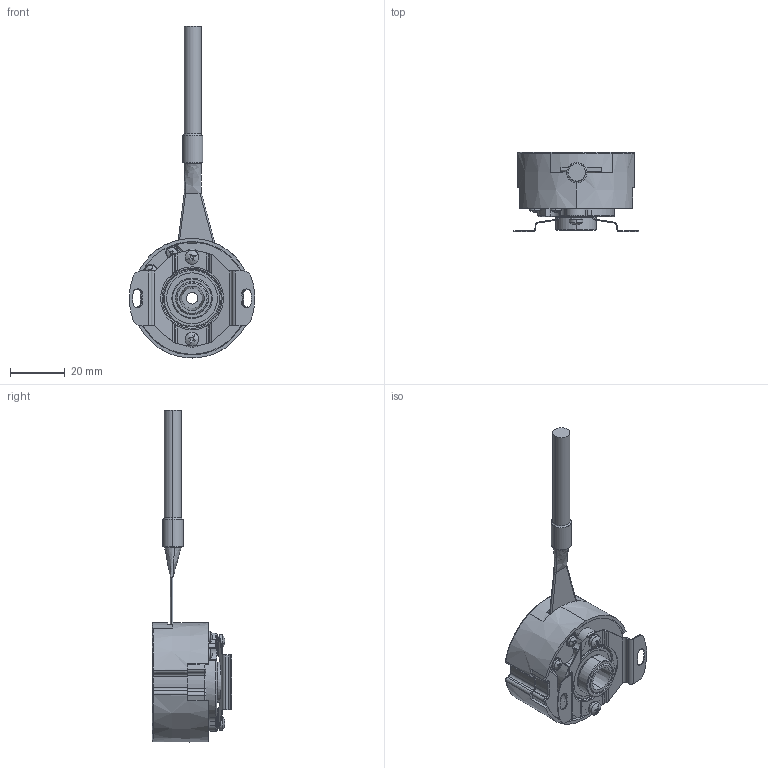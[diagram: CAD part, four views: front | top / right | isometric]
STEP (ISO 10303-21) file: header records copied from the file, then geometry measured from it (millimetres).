
FILE_DESCRIPTION (( 'STEP AP203' ), '1' );
FILE_NAME ('袪粣絳錨璃.STEP', '2022-01-20T09:23:21', ( '' ), ( '' ), 'SwSTEP 2.0', 'SolidWorks 2016', '' );
FILE_SCHEMA (( 'CONFIG_CONTROL_DESIGN' ));
Length unit declared in the file: millimetre
Products named in the file (2): 袪粣絳錨璃
Bounding box: 45.94 x 28.98 x 121.61 mm (x, y, z)
Surface area: 19920.2 mm2 (no closed solid volume)
Topology: 0 solids, 31 shells, 1065 faces, 2740 edges, 1730 vertices
Faces by surface type: cylinder 378, plane 370, bspline 202, cone 67, torus 44, sphere 4
Entity records: 38825 total; most frequent: CARTESIAN_POINT 14116, ORIENTED_EDGE 5389, DIRECTION 4793, EDGE_CURVE 2719, AXIS2_PLACEMENT_3D 1798, VERTEX_POINT 1730, VECTOR 1197, LINE 1197
